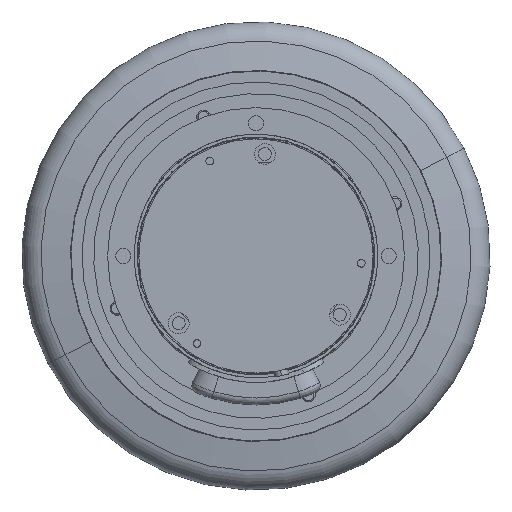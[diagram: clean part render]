
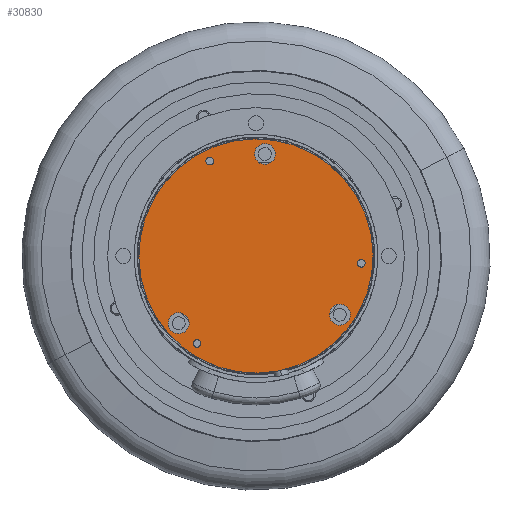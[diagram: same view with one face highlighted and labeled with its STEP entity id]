
A CAD part, left-side view. The second image highlights one B-rep face of the part: STEP entity #30830.
In plain terms, the highlighted planar face has unit normal (-1, 0, 0).
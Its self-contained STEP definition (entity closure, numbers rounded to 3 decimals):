
#268 = EDGE_CURVE ( 'NONE', #16155, #6113, #20338, .T. ) ;
#715 = ORIENTED_EDGE ( 'NONE', *, *, #20051, .F. ) ;
#767 = DIRECTION ( 'NONE',  ( 1., 0., 0. ) ) ;
#855 = CIRCLE ( 'NONE', #22478, 1.65 ) ;
#1195 = VERTEX_POINT ( 'NONE', #14451 ) ;
#1301 = AXIS2_PLACEMENT_3D ( 'NONE', #41092, #31161, #1553 ) ;
#1553 = DIRECTION ( 'NONE',  ( 0., -0.982, 0.191 ) ) ;
#1642 = EDGE_CURVE ( 'NONE', #15958, #34183, #16956, .T. ) ;
#1656 = AXIS2_PLACEMENT_3D ( 'NONE', #40308, #33768, #8555 ) ;
#2085 = EDGE_CURVE ( 'NONE', #9589, #22852, #41857, .T. ) ;
#2548 = FACE_BOUND ( 'NONE', #35087, .T. ) ;
#2702 = EDGE_LOOP ( 'NONE', ( #19977, #29898 ) ) ;
#2803 = CARTESIAN_POINT ( 'NONE',  ( -81.02, 37.738, -29.824 ) ) ;
#2824 = DIRECTION ( 'NONE',  ( 1., 0., 0. ) ) ;
#2923 = DIRECTION ( 'NONE',  ( 1., 0., 0. ) ) ;
#3289 = VERTEX_POINT ( 'NONE', #36356 ) ;
#3408 = DIRECTION ( 'NONE',  ( -1., 0., 0. ) ) ;
#3874 = CIRCLE ( 'NONE', #19407, 4.5 ) ;
#4284 = EDGE_CURVE ( 'NONE', #34183, #15958, #13473, .T. ) ;
#4704 = EDGE_LOOP ( 'NONE', ( #26243, #23185 ) ) ;
#4925 = AXIS2_PLACEMENT_3D ( 'NONE', #18093, #2824, #35202 ) ;
#5044 = CIRCLE ( 'NONE', #1656, 1.65 ) ;
#5066 = CARTESIAN_POINT ( 'NONE',  ( -81.02, 0., 0. ) ) ;
#5228 = DIRECTION ( 'NONE',  ( 0., 0.982, -0.191 ) ) ;
#5518 = FACE_BOUND ( 'NONE', #36052, .T. ) ;
#5791 = CARTESIAN_POINT ( 'NONE',  ( -81.02, 49.572, -9.636 ) ) ;
#6113 = VERTEX_POINT ( 'NONE', #16096 ) ;
#6122 = AXIS2_PLACEMENT_3D ( 'NONE', #9125, #3408, #26049 ) ;
#6620 = DIRECTION ( 'NONE',  ( -1., 0., 0. ) ) ;
#6822 = ORIENTED_EDGE ( 'NONE', *, *, #4284, .F. ) ;
#7154 = ORIENTED_EDGE ( 'NONE', *, *, #29931, .F. ) ;
#7247 = VERTEX_POINT ( 'NONE', #15579 ) ;
#8375 = EDGE_CURVE ( 'NONE', #37309, #21938, #14330, .T. ) ;
#8435 = DIRECTION ( 'NONE',  ( -1., 0., 0. ) ) ;
#8555 = DIRECTION ( 'NONE',  ( 0., 0.982, -0.191 ) ) ;
#9125 = CARTESIAN_POINT ( 'NONE',  ( -81.02, 33.32, -28.965 ) ) ;
#9589 = VERTEX_POINT ( 'NONE', #28592 ) ;
#9631 = CIRCLE ( 'NONE', #4925, 1.65 ) ;
#9700 = CIRCLE ( 'NONE', #33376, 1.65 ) ;
#10638 = VERTEX_POINT ( 'NONE', #32380 ) ;
#11107 = ORIENTED_EDGE ( 'NONE', *, *, #8375, .F. ) ;
#11178 = CIRCLE ( 'NONE', #32827, 50.5 ) ;
#11305 = EDGE_CURVE ( 'NONE', #3289, #1195, #5044, .T. ) ;
#11513 = DIRECTION ( 'NONE',  ( 0., -0.982, 0.191 ) ) ;
#11520 = EDGE_LOOP ( 'NONE', ( #7154, #37990 ) ) ;
#12416 = DIRECTION ( 'NONE',  ( 0., -0.982, 0.191 ) ) ;
#12511 = DIRECTION ( 'NONE',  ( -1., 0., 0. ) ) ;
#13113 = EDGE_LOOP ( 'NONE', ( #6822, #31969 ) ) ;
#13304 = ORIENTED_EDGE ( 'NONE', *, *, #11305, .T. ) ;
#13473 = CIRCLE ( 'NONE', #1301, 4.5 ) ;
#13691 = AXIS2_PLACEMENT_3D ( 'NONE', #31504, #2923, #41652 ) ;
#14059 = ORIENTED_EDGE ( 'NONE', *, *, #38258, .T. ) ;
#14099 = CARTESIAN_POINT ( 'NONE',  ( -81.02, -8.265, 44.841 ) ) ;
#14330 = CIRCLE ( 'NONE', #17702, 4.5 ) ;
#14451 = CARTESIAN_POINT ( 'NONE',  ( -81.02, 18.326, 41.21 ) ) ;
#14813 = VERTEX_POINT ( 'NONE', #15724 ) ;
#15179 = AXIS2_PLACEMENT_3D ( 'NONE', #28366, #12511, #28579 ) ;
#15475 = FACE_BOUND ( 'NONE', #37081, .T. ) ;
#15579 = CARTESIAN_POINT ( 'NONE',  ( -81.02, -43.769, -3.489 ) ) ;
#15724 = CARTESIAN_POINT ( 'NONE',  ( -81.02, 0.569, 43.123 ) ) ;
#15955 = CARTESIAN_POINT ( 'NONE',  ( -81.02, 0., 0. ) ) ;
#15958 = VERTEX_POINT ( 'NONE', #2803 ) ;
#16096 = CARTESIAN_POINT ( 'NONE',  ( -81.02, 27.063, -38.036 ) ) ;
#16155 = VERTEX_POINT ( 'NONE', #37053 ) ;
#16769 = CARTESIAN_POINT ( 'NONE',  ( -81.02, 28.903, -28.106 ) ) ;
#16956 = CIRCLE ( 'NONE', #6122, 4.5 ) ;
#17227 = CARTESIAN_POINT ( 'NONE',  ( -81.02, -40.583, -24.465 ) ) ;
#17702 = AXIS2_PLACEMENT_3D ( 'NONE', #22783, #22349, #12416 ) ;
#18093 = CARTESIAN_POINT ( 'NONE',  ( -81.02, 25.443, -37.721 ) ) ;
#18433 = FACE_BOUND ( 'NONE', #13113, .T. ) ;
#19407 = AXIS2_PLACEMENT_3D ( 'NONE', #31543, #22226, #35125 ) ;
#19977 = ORIENTED_EDGE ( 'NONE', *, *, #38692, .T. ) ;
#20051 = EDGE_CURVE ( 'NONE', #21938, #37309, #25441, .T. ) ;
#20238 = DIRECTION ( 'NONE',  ( 0., 0.982, -0.191 ) ) ;
#20338 = CIRCLE ( 'NONE', #38566, 1.65 ) ;
#21222 = AXIS2_PLACEMENT_3D ( 'NONE', #37534, #37943, #28225 ) ;
#21387 = EDGE_CURVE ( 'NONE', #14813, #38619, #3874, .T. ) ;
#21938 = VERTEX_POINT ( 'NONE', #25342 ) ;
#22226 = DIRECTION ( 'NONE',  ( -1., 0., 0. ) ) ;
#22349 = DIRECTION ( 'NONE',  ( -1., 0., 0. ) ) ;
#22478 = AXIS2_PLACEMENT_3D ( 'NONE', #38678, #28112, #41018 ) ;
#22783 = CARTESIAN_POINT ( 'NONE',  ( -81.02, -36.166, -25.323 ) ) ;
#22852 = VERTEX_POINT ( 'NONE', #5791 ) ;
#23185 = ORIENTED_EDGE ( 'NONE', *, *, #32667, .T. ) ;
#23434 = AXIS2_PLACEMENT_3D ( 'NONE', #25044, #37729, #11513 ) ;
#23471 = ORIENTED_EDGE ( 'NONE', *, *, #38217, .T. ) ;
#25044 = CARTESIAN_POINT ( 'NONE',  ( -81.02, -36.166, -25.323 ) ) ;
#25342 = CARTESIAN_POINT ( 'NONE',  ( -81.02, -31.748, -26.182 ) ) ;
#25441 = CIRCLE ( 'NONE', #23434, 4.5 ) ;
#25819 = FACE_OUTER_BOUND ( 'NONE', #4704, .T. ) ;
#25879 = DIRECTION ( 'NONE',  ( 0., -0.982, 0.191 ) ) ;
#25955 = CIRCLE ( 'NONE', #21222, 4.5 ) ;
#26049 = DIRECTION ( 'NONE',  ( 0., -0.982, 0.191 ) ) ;
#26243 = ORIENTED_EDGE ( 'NONE', *, *, #2085, .T. ) ;
#27120 = EDGE_CURVE ( 'NONE', #7247, #10638, #9700, .T. ) ;
#28112 = DIRECTION ( 'NONE',  ( 1., 0., 0. ) ) ;
#28225 = DIRECTION ( 'NONE',  ( 0., -0.982, 0.191 ) ) ;
#28366 = CARTESIAN_POINT ( 'NONE',  ( -81.02, 9.636, 49.572 ) ) ;
#28579 = DIRECTION ( 'NONE',  ( 0., -0.191, -0.982 ) ) ;
#28592 = CARTESIAN_POINT ( 'NONE',  ( -81.02, -49.572, 9.636 ) ) ;
#29898 = ORIENTED_EDGE ( 'NONE', *, *, #268, .T. ) ;
#29931 = EDGE_CURVE ( 'NONE', #38619, #14813, #25955, .T. ) ;
#30830 = ADVANCED_FACE ( 'NONE', ( #34513, #5518, #18433, #38723, #15475, #2548, #25819 ), #35132, .T. ) ;
#31161 = DIRECTION ( 'NONE',  ( -1., 0., 0. ) ) ;
#31259 = CIRCLE ( 'NONE', #13691, 1.65 ) ;
#31504 = CARTESIAN_POINT ( 'NONE',  ( -81.02, -45.389, -3.174 ) ) ;
#31543 = CARTESIAN_POINT ( 'NONE',  ( -81.02, -3.848, 43.982 ) ) ;
#31969 = ORIENTED_EDGE ( 'NONE', *, *, #1642, .F. ) ;
#32380 = CARTESIAN_POINT ( 'NONE',  ( -81.02, -47.009, -2.859 ) ) ;
#32667 = EDGE_CURVE ( 'NONE', #22852, #9589, #11178, .T. ) ;
#32827 = AXIS2_PLACEMENT_3D ( 'NONE', #15955, #6620, #25879 ) ;
#33088 = AXIS2_PLACEMENT_3D ( 'NONE', #5066, #8435, #37014 ) ;
#33376 = AXIS2_PLACEMENT_3D ( 'NONE', #35256, #767, #20238 ) ;
#33768 = DIRECTION ( 'NONE',  ( 1., 0., 0. ) ) ;
#34183 = VERTEX_POINT ( 'NONE', #16769 ) ;
#34513 = FACE_BOUND ( 'NONE', #11520, .T. ) ;
#35087 = EDGE_LOOP ( 'NONE', ( #13304, #14059 ) ) ;
#35125 = DIRECTION ( 'NONE',  ( 0., -0.982, 0.191 ) ) ;
#35128 = ORIENTED_EDGE ( 'NONE', *, *, #27120, .T. ) ;
#35132 = PLANE ( 'NONE',  #15179 ) ;
#35202 = DIRECTION ( 'NONE',  ( 0., 0.982, -0.191 ) ) ;
#35256 = CARTESIAN_POINT ( 'NONE',  ( -81.02, -45.389, -3.174 ) ) ;
#36052 = EDGE_LOOP ( 'NONE', ( #11107, #715 ) ) ;
#36356 = CARTESIAN_POINT ( 'NONE',  ( -81.02, 21.566, 40.58 ) ) ;
#37014 = DIRECTION ( 'NONE',  ( 0., -0.982, 0.191 ) ) ;
#37053 = CARTESIAN_POINT ( 'NONE',  ( -81.02, 23.824, -37.406 ) ) ;
#37081 = EDGE_LOOP ( 'NONE', ( #35128, #23471 ) ) ;
#37309 = VERTEX_POINT ( 'NONE', #17227 ) ;
#37534 = CARTESIAN_POINT ( 'NONE',  ( -81.02, -3.848, 43.982 ) ) ;
#37729 = DIRECTION ( 'NONE',  ( -1., 0., 0. ) ) ;
#37943 = DIRECTION ( 'NONE',  ( -1., 0., 0. ) ) ;
#37990 = ORIENTED_EDGE ( 'NONE', *, *, #21387, .F. ) ;
#38001 = DIRECTION ( 'NONE',  ( 1., 0., 0. ) ) ;
#38217 = EDGE_CURVE ( 'NONE', #10638, #7247, #31259, .T. ) ;
#38258 = EDGE_CURVE ( 'NONE', #1195, #3289, #855, .T. ) ;
#38566 = AXIS2_PLACEMENT_3D ( 'NONE', #41394, #38001, #5228 ) ;
#38619 = VERTEX_POINT ( 'NONE', #14099 ) ;
#38678 = CARTESIAN_POINT ( 'NONE',  ( -81.02, 19.946, 40.895 ) ) ;
#38692 = EDGE_CURVE ( 'NONE', #6113, #16155, #9631, .T. ) ;
#38723 = FACE_BOUND ( 'NONE', #2702, .T. ) ;
#40308 = CARTESIAN_POINT ( 'NONE',  ( -81.02, 19.946, 40.895 ) ) ;
#41018 = DIRECTION ( 'NONE',  ( 0., 0.982, -0.191 ) ) ;
#41092 = CARTESIAN_POINT ( 'NONE',  ( -81.02, 33.32, -28.965 ) ) ;
#41394 = CARTESIAN_POINT ( 'NONE',  ( -81.02, 25.443, -37.721 ) ) ;
#41652 = DIRECTION ( 'NONE',  ( 0., 0.982, -0.191 ) ) ;
#41857 = CIRCLE ( 'NONE', #33088, 50.5 ) ;
